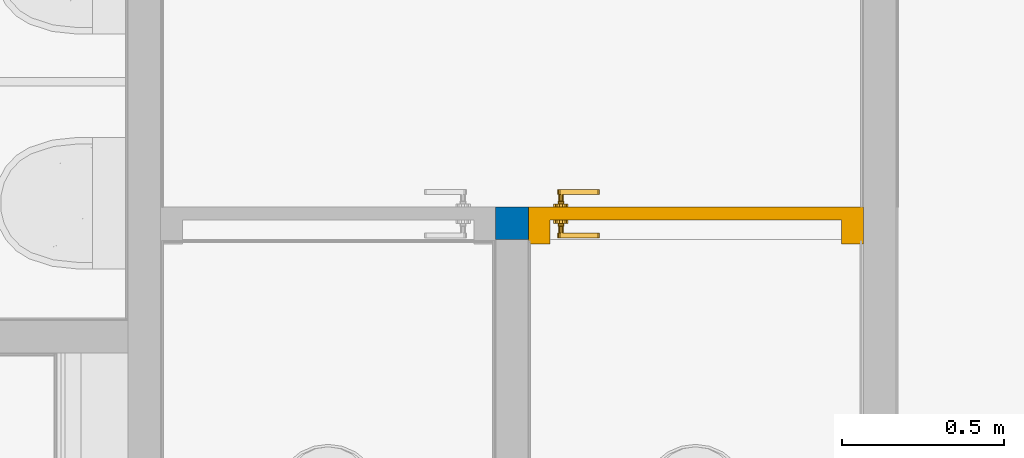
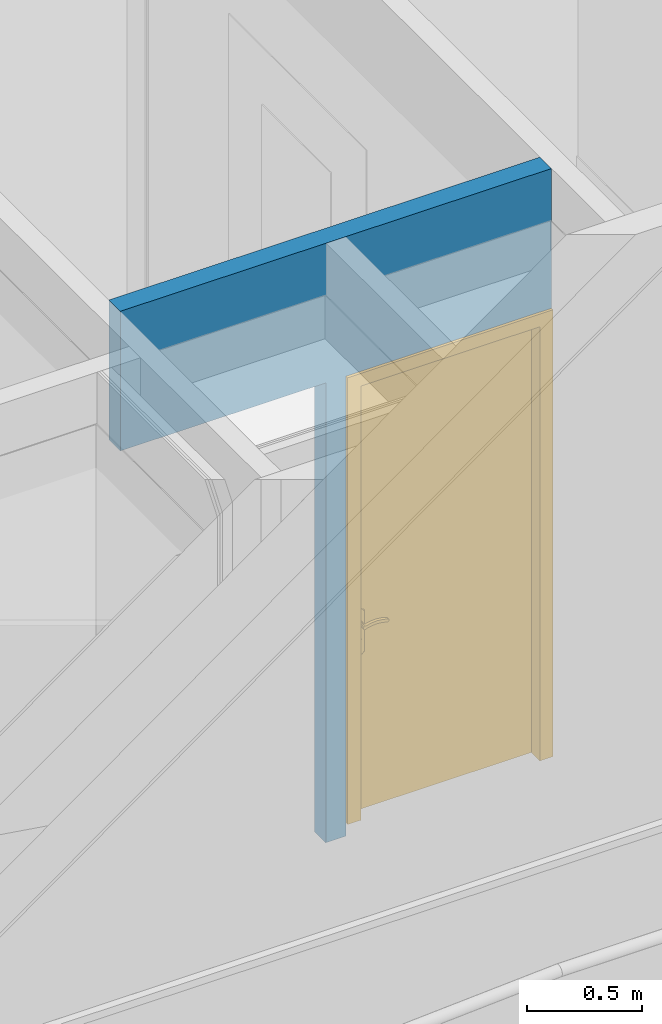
# One storey, part 4 of 788: 1 door, 1 wall, 2 openings.
"""IFC2X3 building model written with IfcOpenShell, lengths in millimetres."""

from ifc_helpers import new_model, entity, si_unit, converted_unit, derived_unit, money_unit, direction, frame, origin_with_axes, place, context, subcontext, project, spatial, faceted_brep, source, transform, mapped, material, type_object, type_shapes, element, fill, save


model = new_model("IFC2X3")

# Units and contexts
model_context = context("Model", 3, precision=0.01, world=origin_with_axes(), true_north=direction((0.0, 1.0)))
plan_context = context("Plan", 3, precision=0.01, world=origin_with_axes(), true_north=direction((0.0, 1.0)))
body_context = subcontext(model_context, "Body", "Model", "MODEL_VIEW")
ifc_project = project(units=[si_unit("LENGTHUNIT", "METRE", prefix="MILLI"), si_unit("AREAUNIT", "SQUARE_METRE"), si_unit("VOLUMEUNIT", "CUBIC_METRE"), converted_unit("PLANEANGLEUNIT", "DEGREE", entity("IfcPlaneAngleMeasure", 0.0174532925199), si_unit("PLANEANGLEUNIT", "RADIAN"), dimensions=[0, 0, 0, 0, 0, 0, 0]), money_unit("EUR"), converted_unit("TIMEUNIT", "Year", entity("IfcTimeMeasure", 31556926.0), si_unit("TIMEUNIT", "SECOND"), dimensions=[0, 0, 1, 0, 0, 0, 0]), si_unit("MASSUNIT", "GRAM", prefix="KILO"), si_unit("THERMODYNAMICTEMPERATUREUNIT", "DEGREE_CELSIUS"), si_unit("LUMINOUSINTENSITYUNIT", "LUMEN"), si_unit("ENERGYUNIT", "JOULE", prefix="MEGA"), derived_unit("THERMALCONDUCTANCEUNIT", [(si_unit("POWERUNIT", "WATT"), 1), (si_unit("LENGTHUNIT", "METRE"), -1), (si_unit("THERMODYNAMICTEMPERATUREUNIT", "KELVIN"), -1)]), derived_unit("SPECIFICHEATCAPACITYUNIT", [(si_unit("ENERGYUNIT", "JOULE"), 1), (si_unit("MASSUNIT", "GRAM", prefix="KILO"), -1), (si_unit("THERMODYNAMICTEMPERATUREUNIT", "KELVIN"), -1)]), derived_unit("MASSDENSITYUNIT", [(si_unit("MASSUNIT", "GRAM", prefix="KILO"), 1), (si_unit("VOLUMEUNIT", "CUBIC_METRE"), -1)])], contexts=[model_context, plan_context])

# Site, building, storey
site_placement = place(None, origin_with_axes())
site = spatial("IfcSite", under=ifc_project, at=site_placement, Name="Site", CompositionType="ELEMENT")
building_placement = place(site_placement, origin_with_axes())
building = spatial("IfcBuilding", under=site, at=building_placement, Name="Naam gebouw", CompositionType="ELEMENT")
storey_placement = place(building_placement, origin_with_axes())
storey = spatial("IfcBuildingStorey", under=building, at=storey_placement, Name="Begane grond", CompositionType="ELEMENT", Elevation=0.0)

# Wall, openings, door
ifc_material = material(Name="Steen - Betonblok C")
wall_type = type_object("IfcWallType", Name="22 Binnenwand NC_betonblok 100mm 100", PredefinedType="ELEMENTEDWALL")
wall_placement = place(storey_placement, frame((69606.0166564, -56503.9858655, 830.0), z_axis=(0.0, 0.0, 1.0), x_axis=(-1.0, 0.0, 0.0)))
wall = element("IfcWall", 1, at=wall_placement, inside=storey, type_object=wall_type, material=ifc_material, Name="Binnenwand", context=body_context, shape_type="Brep", body=[
    faceted_brep([(1136.00000005, -50.0, 2447.0), (2170.00000005, -50.0, 2447.0), (2170.0, -50.0, 3190.0), (0.0, -50.0, 3190.0), (0.0, -50.0, 2447.0), (1034.0, -50.0, 2447.0), (1034.0, -50.0, 70.0), (1034.0, -50.0, 0.0), (1136.00000005, -50.0, 0.0), (1136.00000005, -50.0, 70.0), (1136.00000005, 50.0, 2447.0), (2170.00000005, 50.0, 2447.0), (2170.0, 50.0, 3190.0), (0.0, 50.0, 3190.0), (0.0, 50.0, 2447.0), (1034.0, 50.0, 2447.0), (1034.0, 50.0, 70.0), (1034.0, 50.0, 0.0), (1136.00000005, 50.0, 0.0), (1136.00000005, 50.0, 70.0)], [[[0, 1, 2, 3, 4, 5, 6, 7, 8, 9]], [[1, 0, 10, 11]], [[1, 11, 12, 2]], [[12, 13, 3, 2]], [[4, 3, 13, 14]], [[4, 14, 15, 5]], [[5, 15, 16, 6]], [[16, 17, 7, 6]], [[8, 7, 17, 18]], [[19, 9, 8, 18]], [[0, 9, 19, 10]], [[10, 19, 18, 17, 16, 15, 14, 13, 12, 11]]]),
])
opening_1_placement = place(wall_placement, frame((517.0, 0.0, 70.0), z_axis=(0.0, 0.0, 1.0), x_axis=(1.0, 0.0, 0.0)))
opening_1 = element("IfcOpeningElement", 2, at=opening_1_placement, cuts=wall, Name="b1.13", context=body_context, shape_type="Brep", body=[
    faceted_brep([(-517.0, 100.0, 2377.0), (-517.0, 100.0, 0.0), (-517.0, -200.0, 0.0), (-517.0, -200.0, 2377.0), (517.0, 100.0, 2377.0), (517.0, 100.0, 0.0), (517.0, -200.0, 0.0), (517.0, -200.0, 2377.0)], [[[0, 1, 2, 3]], [[0, 4, 5, 1]], [[1, 5, 6, 2]], [[3, 2, 6, 7]], [[4, 0, 3, 7]], [[5, 4, 7, 6]]]),
])
opening_2_placement = place(wall_placement, frame((1653.00000005, 0.0, 70.0), z_axis=(0.0, 0.0, 1.0), x_axis=(1.0, 0.0, 0.0)))
element("IfcOpeningElement", 3, at=opening_2_placement, cuts=wall, Name="b1.13-sp", context=body_context, shape_type="Brep", body=[
    faceted_brep([(517.0, -200.0, 2377.0), (517.0, -200.0, 0.0), (517.0, 100.0, 0.0), (517.0, 100.0, 2377.0), (-517.0, -200.0, 2377.0), (-517.0, -200.0, 0.0), (-517.0, 100.0, 0.0), (-517.0, 100.0, 2377.0)], [[[0, 1, 2, 3]], [[0, 4, 5, 1]], [[1, 5, 6, 2]], [[3, 2, 6, 7]], [[4, 0, 3, 7]], [[5, 4, 7, 6]]]),
])
door_style = type_object("IfcDoorStyle", Name="D1 25", ConstructionType="NOTDEFINED", OperationType="SINGLE_SWING_RIGHT", ParameterTakesPrecedence=False, Sizeable=False)
shared_shape = source(origin_with_axes(), body_context, "Body", "Brep", [
    faceted_brep([(-450.0, -40.0, 0.0), (-450.0, -40.0, 2310.0), (-450.0, -114.0, 2310.0), (-450.0, -114.0, 0.0), (-467.0, -40.0, 2310.0), (-467.0, -40.0, 0.0), (-467.0, 0.0, 2310.0), (-517.0, 0.0, 2310.0), (-517.0, -114.0, 2310.0), (-517.0, -114.0, 0.0), (-517.0, 0.0, 0.0), (-467.0, 0.0, 0.0)], [[[0, 1, 2, 3]], [[4, 1, 0, 5]], [[4, 6, 7, 8, 2, 1]], [[3, 2, 8, 9]], [[5, 0, 3, 9, 10, 11]], [[6, 4, 5, 11]], [[6, 11, 10, 7]], [[10, 9, 8, 7]]]),
    faceted_brep([(467.0, -40.0, 2310.0), (450.0, -40.0, 2310.0), (450.0, -114.0, 2310.0), (517.0, -114.0, 2310.0), (517.0, 0.0, 2310.0), (467.0, 0.0, 2310.0), (467.0, -40.0, 0.0), (450.0, -40.0, 0.0), (450.0, -114.0, 0.0), (517.0, -114.0, 0.0), (517.0, 0.0, 0.0), (467.0, 0.0, 0.0)], [[[0, 1, 2, 3, 4, 5]], [[1, 0, 6, 7]], [[1, 7, 8, 2]], [[3, 2, 8, 9]], [[4, 3, 9, 10]], [[11, 5, 4, 10]], [[0, 5, 11, 6]], [[6, 11, 10, 9, 8, 7]]]),
    faceted_brep([(-467.0, 0.0, 2327.0), (-467.0, 0.0, 2310.0), (-517.0, 0.0, 2310.0), (-517.0, 0.0, 2377.0), (517.0, 0.0, 2377.0), (517.0, 0.0, 2310.0), (467.0, 0.0, 2310.0), (467.0, 0.0, 2327.0), (-467.0, -40.0, 2327.0), (-467.0, -40.0, 2310.0), (-450.0, -40.0, 2310.0), (-450.0, -114.0, 2310.0), (-517.0, -114.0, 2310.0), (-517.0, -114.0, 2377.0), (517.0, -114.0, 2377.0), (517.0, -114.0, 2310.0), (467.0, -40.0, 2310.0), (450.0, -114.0, 2310.0), (450.0, -40.0, 2310.0), (467.0, -40.0, 2327.0)], [[[0, 1, 2, 3, 4, 5, 6, 7]], [[1, 0, 8, 9]], [[9, 10, 11, 12, 2, 1]], [[2, 12, 13, 3]], [[3, 13, 14, 4]], [[4, 14, 15, 5]], [[16, 6, 5, 15, 17, 18]], [[7, 6, 16, 19]], [[0, 7, 19, 8]], [[16, 18, 10, 9, 8, 19]], [[10, 18, 17, 11]], [[17, 15, 14, 13, 12, 11]]]),
    faceted_brep([(-421.702282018, -80.0, 1006.47213595), (-417.0, -80.0, 1008.0), (-417.0, -60.0, 1008.0), (-421.702282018, -60.0, 1006.47213595), (-424.60845213, -80.0, 1002.47213595), (-424.60845213, -80.0, 997.527864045), (-421.702282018, -80.0, 993.527864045), (-417.0, -80.0, 992.0), (-412.297717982, -80.0, 993.527864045), (-409.39154787, -80.0, 997.527864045), (-409.39154787, -80.0, 1002.47213595), (-412.297717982, -80.0, 1006.47213595), (-412.297717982, -60.0, 1006.47213595), (-417.0, -58.0, 1010.0), (-422.877852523, -58.0, 1008.09016994), (-424.60845213, -60.0, 1002.47213595), (-424.60845213, -60.0, 997.527864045), (-421.702282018, -60.0, 993.527864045), (-417.0, -60.0, 992.0), (-412.297717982, -60.0, 993.527864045), (-409.39154787, -60.0, 997.527864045), (-409.39154787, -60.0, 1002.47213595), (-411.122147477, -58.0, 1008.09016994), (-417.0, -50.0, 1010.0), (-422.877852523, -50.0, 1008.09016994), (-426.510565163, -58.0, 1003.09016994), (-426.510565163, -58.0, 996.909830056), (-422.877852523, -58.0, 991.909830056), (-417.0, -58.0, 990.0), (-411.122147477, -58.0, 991.909830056), (-407.489434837, -58.0, 996.909830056), (-407.489434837, -58.0, 1003.09016994), (-411.122147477, -50.0, 1008.09016994), (-407.489434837, -50.0, 1003.09016994), (-407.489434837, -50.0, 996.909830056), (-411.122147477, -50.0, 991.909830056), (-417.0, -50.0, 990.0), (-422.877852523, -50.0, 991.909830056), (-426.510565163, -50.0, 996.909830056), (-426.510565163, -50.0, 1003.09016994)], [[[0, 1, 2, 3]], [[1, 0, 4, 5, 6, 7, 8, 9, 10, 11]], [[1, 11, 12, 2]], [[3, 2, 13, 14]], [[4, 0, 3, 15]], [[5, 4, 15, 16]], [[6, 5, 16, 17]], [[7, 6, 17, 18]], [[8, 7, 18, 19]], [[9, 8, 19, 20]], [[10, 9, 20, 21]], [[11, 10, 21, 12]], [[2, 12, 22, 13]], [[14, 13, 23, 24]], [[15, 3, 14, 25]], [[16, 15, 25, 26]], [[17, 16, 26, 27]], [[18, 17, 27, 28]], [[19, 18, 28, 29]], [[20, 19, 29, 30]], [[21, 20, 30, 31]], [[12, 21, 31, 22]], [[13, 22, 32, 23]], [[23, 32, 33, 34, 35, 36, 37, 38, 39, 24]], [[25, 14, 24, 39]], [[26, 25, 39, 38]], [[27, 26, 38, 37]], [[28, 27, 37, 36]], [[29, 28, 36, 35]], [[30, 29, 35, 34]], [[31, 30, 34, 33]], [[22, 31, 33, 32]]]),
    faceted_brep([(-404.811616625, -50.0, 1067.59695641), (-412.556444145, -50.0, 1071.95567195), (-421.443555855, -50.0, 1071.95567195), (-429.188383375, -50.0, 1067.59695641), (-433.8, -50.0, 1060.0), (-439.5, -50.0, 1060.0), (-439.5, -50.0, 840.0), (-433.8, -50.0, 840.0), (-429.188383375, -50.0, 832.403043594), (-421.443555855, -50.0, 828.044328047), (-412.556444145, -50.0, 828.044328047), (-404.811616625, -50.0, 832.403043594), (-400.2, -50.0, 840.0), (-394.5, -50.0, 840.0), (-394.5, -50.0, 1060.0), (-400.2, -50.0, 1060.0), (-417.0, -50.0, 917.425445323), (-411.624817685, -50.0, 915.143815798), (-409.532169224, -50.0, 909.692280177), (-412.0, -50.0, 904.4), (-412.0, -50.0, 887.5), (-413.464466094, -50.0, 883.964466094), (-417.0, -50.0, 882.5), (-420.535533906, -50.0, 883.964466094), (-422.0, -50.0, 887.5), (-422.0, -50.0, 904.4), (-424.467830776, -50.0, 909.692280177), (-422.375182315, -50.0, 915.143815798), (-404.811616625, -40.0, 1067.59695641), (-412.556444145, -40.0, 1071.95567195), (-421.443555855, -40.0, 1071.95567195), (-429.188383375, -40.0, 1067.59695641), (-433.8, -40.0, 1060.0), (-439.5, -40.0, 1060.0), (-439.5, -40.0, 840.0), (-433.8, -40.0, 840.0), (-429.188383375, -40.0, 832.403043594), (-421.443555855, -40.0, 828.044328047), (-412.556444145, -40.0, 828.044328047), (-404.811616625, -40.0, 832.403043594), (-400.2, -40.0, 840.0), (-394.5, -40.0, 840.0), (-394.5, -40.0, 1060.0), (-400.2, -40.0, 1060.0), (-417.0, -40.0, 917.425445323), (-411.624817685, -40.0, 915.143815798), (-409.532169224, -40.0, 909.692280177), (-412.0, -40.0, 904.4), (-412.0, -40.0, 887.5), (-413.464466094, -40.0, 883.964466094), (-417.0, -40.0, 882.5), (-420.535533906, -40.0, 883.964466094), (-422.0, -40.0, 887.5), (-422.0, -40.0, 904.4), (-424.467830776, -40.0, 909.692280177), (-422.375182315, -40.0, 915.143815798)], [[[0, 1, 2, 3, 4, 5, 6, 7, 8, 9, 10, 11, 12, 13, 14, 15], [16, 17, 18, 19, 20, 21, 22, 23, 24, 25, 26, 27]], [[1, 0, 28, 29]], [[2, 1, 29, 30]], [[3, 2, 30, 31]], [[4, 3, 31, 32]], [[5, 4, 32, 33]], [[6, 5, 33, 34]], [[7, 6, 34, 35]], [[8, 7, 35, 36]], [[9, 8, 36, 37]], [[10, 9, 37, 38]], [[11, 10, 38, 39]], [[12, 11, 39, 40]], [[13, 12, 40, 41]], [[14, 13, 41, 42]], [[15, 14, 42, 43]], [[0, 15, 43, 28]], [[17, 16, 44, 45]], [[18, 17, 45, 46]], [[19, 18, 46, 47]], [[19, 47, 48, 20]], [[20, 48, 49, 21]], [[21, 49, 50, 22]], [[22, 50, 51, 23]], [[23, 51, 52, 24]], [[53, 25, 24, 52]], [[26, 25, 53, 54]], [[27, 26, 54, 55]], [[16, 27, 55, 44]], [[40, 39, 38, 37, 36, 35, 34, 33, 32, 31, 30, 29, 28, 43, 42, 41], [54, 53, 52, 51, 50, 49, 48, 47, 46, 45, 44, 55]]]),
    faceted_brep([(-302.747, -80.0, 1007.158), (-302.747, -95.0, 1007.158), (-302.745508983, -95.0, 1007.19388416), (-302.745508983, -80.0, 1007.19388416), (-329.774630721, -80.0, 1014.32652034), (-329.774630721, -95.0, 1014.32652034), (-357.602743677, -95.0, 1017.06086405), (-385.508740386, -95.0, 1015.29002982), (-412.768, -95.0, 1009.06), (-419.170575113, -95.0, 1009.76125134), (-424.672633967, -95.0, 1006.41280843), (-426.991512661, -95.0, 1000.40385485), (-425.165167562, -95.0, 994.227352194), (-419.951302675, -95.0, 990.445773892), (-413.513017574, -95.0, 990.628000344), (-408.521392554, -95.0, 994.698430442), (-408.542, -95.0, 994.666), (-383.253286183, -95.0, 1000.19878945), (-357.410818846, -95.0, 1001.71460194), (-331.648684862, -95.0, 999.176244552), (-306.599, -95.0, 992.646), (-301.055815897, -95.0, 993.568490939), (-297.69427449, -95.0, 998.071591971), (-298.385844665, -95.0, 1003.64829442), (-298.385844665, -80.0, 1003.64829442), (-297.69427449, -80.0, 998.071591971), (-301.055815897, -80.0, 993.568490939), (-306.599, -80.0, 992.646), (-331.648684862, -80.0, 999.176244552), (-357.410818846, -80.0, 1001.71460194), (-383.253286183, -80.0, 1000.19878945), (-408.542, -80.0, 994.666), (-408.521392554, -80.0, 994.698430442), (-413.513017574, -80.0, 990.628000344), (-419.951302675, -80.0, 990.445773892), (-425.165167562, -80.0, 994.227352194), (-426.991512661, -80.0, 1000.40385485), (-424.672633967, -80.0, 1006.41280843), (-419.170575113, -80.0, 1009.76125134), (-412.768, -80.0, 1009.06), (-385.508740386, -80.0, 1015.29002982), (-357.602743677, -80.0, 1017.06086405)], [[[0, 1, 2, 3]], [[4, 5, 1, 0]], [[1, 5, 6, 7, 8, 9, 10, 11, 12, 13, 14, 15, 16, 17, 18, 19, 20, 21, 22, 23, 2]], [[3, 2, 23, 24]], [[0, 3, 24, 25, 26, 27, 28, 29, 30, 31, 32, 33, 34, 35, 36, 37, 38, 39, 40, 41, 4]], [[41, 6, 5, 4]], [[40, 7, 6, 41]], [[39, 8, 7, 40]], [[38, 9, 8, 39]], [[37, 10, 9, 38]], [[36, 11, 10, 37]], [[35, 12, 11, 36]], [[34, 13, 12, 35]], [[33, 14, 13, 34]], [[32, 15, 14, 33]], [[31, 16, 15, 32]], [[30, 17, 16, 31]], [[29, 18, 17, 30]], [[28, 19, 18, 29]], [[27, 20, 19, 28]], [[26, 21, 20, 27]], [[25, 22, 21, 26]], [[24, 23, 22, 25]]]),
    faceted_brep([(-421.702282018, 40.0, 1006.47213595), (-421.702282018, 20.0, 1006.47213595), (-417.0, 20.0, 1008.0), (-417.0, 40.0, 1008.0), (-424.60845213, 40.0, 1002.47213595), (-424.60845213, 20.0, 1002.47213595), (-422.877852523, 18.0, 1008.09016994), (-417.0, 18.0, 1010.0), (-412.297717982, 20.0, 1006.47213595), (-412.297717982, 40.0, 1006.47213595), (-409.39154787, 40.0, 1002.47213595), (-409.39154787, 40.0, 997.527864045), (-412.297717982, 40.0, 993.527864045), (-417.0, 40.0, 992.0), (-421.702282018, 40.0, 993.527864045), (-424.60845213, 40.0, 997.527864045), (-424.60845213, 20.0, 997.527864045), (-426.510565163, 18.0, 1003.09016994), (-422.877852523, 10.0, 1008.09016994), (-417.0, 10.0, 1010.0), (-411.122147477, 18.0, 1008.09016994), (-409.39154787, 20.0, 1002.47213595), (-409.39154787, 20.0, 997.527864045), (-412.297717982, 20.0, 993.527864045), (-417.0, 20.0, 992.0), (-421.702282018, 20.0, 993.527864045), (-426.510565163, 18.0, 996.909830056), (-426.510565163, 10.0, 1003.09016994), (-426.510565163, 10.0, 996.909830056), (-422.877852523, 10.0, 991.909830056), (-417.0, 10.0, 990.0), (-411.122147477, 10.0, 991.909830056), (-407.489434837, 10.0, 996.909830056), (-407.489434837, 10.0, 1003.09016994), (-411.122147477, 10.0, 1008.09016994), (-407.489434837, 18.0, 1003.09016994), (-407.489434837, 18.0, 996.909830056), (-411.122147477, 18.0, 991.909830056), (-417.0, 18.0, 990.0), (-422.877852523, 18.0, 991.909830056)], [[[0, 1, 2, 3]], [[4, 5, 1, 0]], [[1, 6, 7, 2]], [[3, 2, 8, 9]], [[3, 9, 10, 11, 12, 13, 14, 15, 4, 0]], [[15, 16, 5, 4]], [[5, 17, 6, 1]], [[6, 18, 19, 7]], [[2, 7, 20, 8]], [[9, 8, 21, 10]], [[10, 21, 22, 11]], [[11, 22, 23, 12]], [[12, 23, 24, 13]], [[13, 24, 25, 14]], [[14, 25, 16, 15]], [[16, 26, 17, 5]], [[17, 27, 18, 6]], [[19, 18, 27, 28, 29, 30, 31, 32, 33, 34]], [[7, 19, 34, 20]], [[8, 20, 35, 21]], [[21, 35, 36, 22]], [[22, 36, 37, 23]], [[23, 37, 38, 24]], [[24, 38, 39, 25]], [[25, 39, 26, 16]], [[26, 28, 27, 17]], [[39, 29, 28, 26]], [[38, 30, 29, 39]], [[37, 31, 30, 38]], [[36, 32, 31, 37]], [[35, 33, 32, 36]], [[20, 34, 33, 35]]]),
    faceted_brep([(-404.811616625, 0.0, 1067.59695641), (-412.556444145, 0.0, 1071.95567195), (-421.443555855, 0.0, 1071.95567195), (-429.188383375, 0.0, 1067.59695641), (-433.8, 0.0, 1060.0), (-439.5, 0.0, 1060.0), (-439.5, 0.0, 840.0), (-433.8, 0.0, 840.0), (-429.188383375, 0.0, 832.403043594), (-421.443555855, 0.0, 828.044328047), (-412.556444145, 0.0, 828.044328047), (-404.811616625, 0.0, 832.403043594), (-400.2, 0.0, 840.0), (-394.5, 0.0, 840.0), (-394.5, 0.0, 1060.0), (-400.2, 0.0, 1060.0), (-417.0, 0.0, 917.425445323), (-411.624817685, 0.0, 915.143815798), (-409.532169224, 0.0, 909.692280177), (-412.0, 0.0, 904.4), (-412.0, 0.0, 887.5), (-413.464466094, 0.0, 883.964466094), (-417.0, 0.0, 882.5), (-420.535533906, 0.0, 883.964466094), (-422.0, 0.0, 887.5), (-422.0, 0.0, 904.4), (-424.467830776, 0.0, 909.692280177), (-422.375182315, 0.0, 915.143815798), (-412.556444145, 10.0, 1071.95567195), (-404.811616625, 10.0, 1067.59695641), (-421.443555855, 10.0, 1071.95567195), (-429.188383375, 10.0, 1067.59695641), (-433.8, 10.0, 1060.0), (-439.5, 10.0, 1060.0), (-439.5, 10.0, 840.0), (-433.8, 10.0, 840.0), (-429.188383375, 10.0, 832.403043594), (-421.443555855, 10.0, 828.044328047), (-412.556444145, 10.0, 828.044328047), (-404.811616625, 10.0, 832.403043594), (-400.2, 10.0, 840.0), (-394.5, 10.0, 840.0), (-394.5, 10.0, 1060.0), (-400.2, 10.0, 1060.0), (-417.0, 10.0, 917.425445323), (-411.624817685, 10.0, 915.143815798), (-409.532169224, 10.0, 909.692280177), (-412.0, 10.0, 904.4), (-412.0, 10.0, 887.5), (-413.464466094, 10.0, 883.964466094), (-417.0, 10.0, 882.5), (-420.535533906, 10.0, 883.964466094), (-422.0, 10.0, 887.5), (-422.0, 10.0, 904.4), (-424.467830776, 10.0, 909.692280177), (-422.375182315, 10.0, 915.143815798)], [[[0, 1, 2, 3, 4, 5, 6, 7, 8, 9, 10, 11, 12, 13, 14, 15], [16, 17, 18, 19, 20, 21, 22, 23, 24, 25, 26, 27]], [[28, 1, 0, 29]], [[30, 2, 1, 28]], [[31, 3, 2, 30]], [[32, 4, 3, 31]], [[33, 5, 4, 32]], [[34, 6, 5, 33]], [[35, 7, 6, 34]], [[36, 8, 7, 35]], [[37, 9, 8, 36]], [[38, 10, 9, 37]], [[39, 11, 10, 38]], [[40, 12, 11, 39]], [[41, 13, 12, 40]], [[42, 14, 13, 41]], [[43, 15, 14, 42]], [[29, 0, 15, 43]], [[17, 16, 44, 45]], [[18, 17, 45, 46]], [[19, 18, 46, 47]], [[19, 47, 48, 20]], [[20, 48, 49, 21]], [[21, 49, 50, 22]], [[22, 50, 51, 23]], [[23, 51, 52, 24]], [[53, 25, 24, 52]], [[26, 25, 53, 54]], [[27, 26, 54, 55]], [[16, 27, 55, 44]], [[40, 39, 38, 37, 36, 35, 34, 33, 32, 31, 30, 28, 29, 43, 42, 41], [54, 53, 52, 51, 50, 49, 48, 47, 46, 45, 44, 55]]]),
    faceted_brep([(-302.747, 40.0, 1007.158), (-302.745508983, 40.0, 1007.19388416), (-302.745508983, 55.0, 1007.19388416), (-302.747, 55.0, 1007.158), (-329.774630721, 40.0, 1014.32652034), (-357.602743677, 40.0, 1017.06086405), (-385.508740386, 40.0, 1015.29002982), (-412.768, 40.0, 1009.06), (-419.170575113, 40.0, 1009.76125134), (-424.672633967, 40.0, 1006.41280843), (-426.991512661, 40.0, 1000.40385485), (-425.165167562, 40.0, 994.227352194), (-419.951302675, 40.0, 990.445773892), (-413.513017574, 40.0, 990.628000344), (-408.521392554, 40.0, 994.698430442), (-408.542, 40.0, 994.666), (-383.253286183, 40.0, 1000.19878945), (-357.410818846, 40.0, 1001.71460194), (-331.648684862, 40.0, 999.176244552), (-306.599, 40.0, 992.646), (-301.055815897, 40.0, 993.568490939), (-297.69427449, 40.0, 998.071591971), (-298.385844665, 40.0, 1003.64829442), (-298.385844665, 55.0, 1003.64829442), (-297.69427449, 55.0, 998.071591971), (-301.055815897, 55.0, 993.568490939), (-306.599, 55.0, 992.646), (-331.648684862, 55.0, 999.176244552), (-357.410818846, 55.0, 1001.71460194), (-383.253286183, 55.0, 1000.19878945), (-408.542, 55.0, 994.666), (-408.521392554, 55.0, 994.698430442), (-413.513017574, 55.0, 990.628000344), (-419.951302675, 55.0, 990.445773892), (-425.165167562, 55.0, 994.227352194), (-426.991512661, 55.0, 1000.40385485), (-424.672633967, 55.0, 1006.41280843), (-419.170575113, 55.0, 1009.76125134), (-412.768, 55.0, 1009.06), (-385.508740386, 55.0, 1015.29002982), (-357.602743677, 55.0, 1017.06086405), (-329.774630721, 55.0, 1014.32652034)], [[[0, 1, 2, 3]], [[0, 4, 5, 6, 7, 8, 9, 10, 11, 12, 13, 14, 15, 16, 17, 18, 19, 20, 21, 22, 1]], [[1, 22, 23, 2]], [[3, 2, 23, 24, 25, 26, 27, 28, 29, 30, 31, 32, 33, 34, 35, 36, 37, 38, 39, 40, 41]], [[4, 0, 3, 41]], [[5, 4, 41, 40]], [[6, 5, 40, 39]], [[7, 6, 39, 38]], [[8, 7, 38, 37]], [[9, 8, 37, 36]], [[10, 9, 36, 35]], [[11, 10, 35, 34]], [[12, 11, 34, 33]], [[13, 12, 33, 32]], [[14, 13, 32, 31]], [[15, 14, 31, 30]], [[16, 15, 30, 29]], [[17, 16, 29, 28]], [[18, 17, 28, 27]], [[19, 18, 27, 26]], [[20, 19, 26, 25]], [[21, 20, 25, 24]], [[22, 21, 24, 23]]]),
    faceted_brep([(467.0, 0.0, 0.0), (467.0, -40.0, 0.0), (-467.0, -40.0, 0.0), (-467.0, 0.0, 0.0), (467.0, 0.0, 2327.0), (467.0, -40.0, 2327.0), (-467.0, -40.0, 2327.0), (-467.0, 0.0, 2327.0)], [[[0, 1, 2, 3]], [[4, 5, 1, 0]], [[1, 5, 6, 2]], [[3, 2, 6, 7]], [[0, 3, 7, 4]], [[7, 6, 5, 4]]]),
])
type_shapes(door_style, [shared_shape])
door_placement = place(opening_1_placement, frame((517.0, 0.0, 0.0), z_axis=(0.0, 0.0, 1.0), x_axis=(-1.0, 0.0, 0.0)))
door = element("IfcDoor", 4, at=door_placement, inside=storey, type_object=door_style, Name="b1.13", ObjectType="DOOR", OverallHeight=2377.0, OverallWidth=1034.0, context=body_context, shape_type="MappedRepresentation", body=[
    mapped(shared_shape, transform((517.0, 50.0, 0.0))),
])
fill(opening_1, door)

save(model, "model.ifc")
